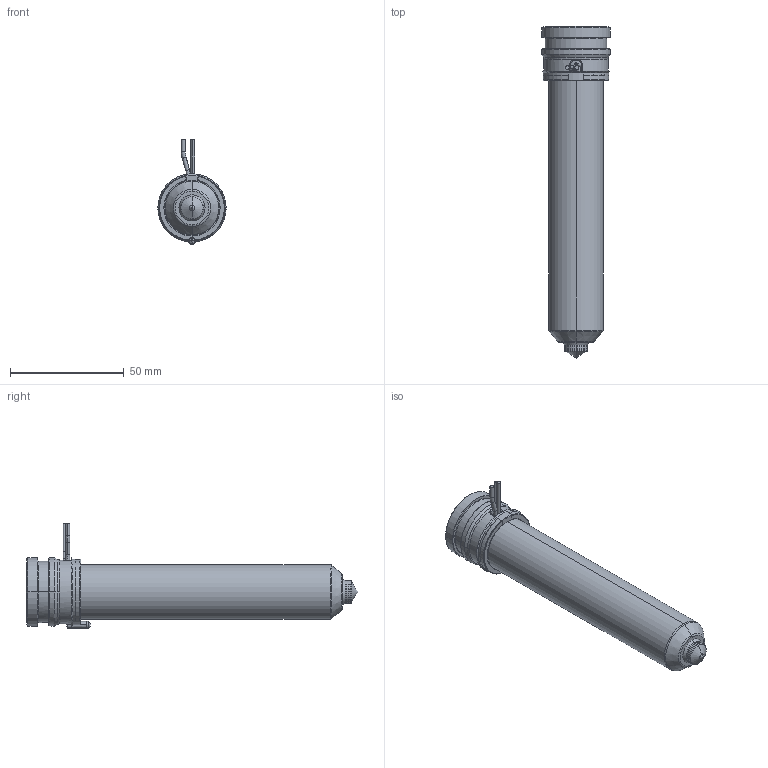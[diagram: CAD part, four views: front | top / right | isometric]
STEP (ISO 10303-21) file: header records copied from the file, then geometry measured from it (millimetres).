
FILE_DESCRIPTION((''),'2;1');
FILE_NAME('MPN-10-29-TS10-126-A','2026-02-05T12:33:19',('UPTIO'),('Thermoplay S.p.A.'),'CREO PARAMETRIC BY PTC INC, 2023494','CREO PARAMETRIC BY PTC INC, 2023494','');
FILE_SCHEMA(('CONFIG_CONTROL_DESIGN','SHAPE_APPEARANCE_LAYERS_GROUPS'));
Length unit declared in the file: millimetre
Products named in the file (1): MPN-10-29-TS10-126-A
Bounding box: 30 x 146 x 46 mm (x, y, z)
Volume: 45985.5 mm3; surface area: 46089.6 mm2
Topology: 2 solids, 3 shells, 552 faces, 1455 edges, 898 vertices
Faces by surface type: cylinder 180, plane 145, bspline 78, torus 68, cone 66, sphere 11, extrusion 4
Entity records: 28075 total; most frequent: CARTESIAN_POINT 11696, ORIENTED_EDGE 2894, DIRECTION 2651, EDGE_CURVE 1447, AXIS2_PLACEMENT_3D 1051, VERTEX_POINT 898, EDGE_LOOP 581, CIRCLE 580
